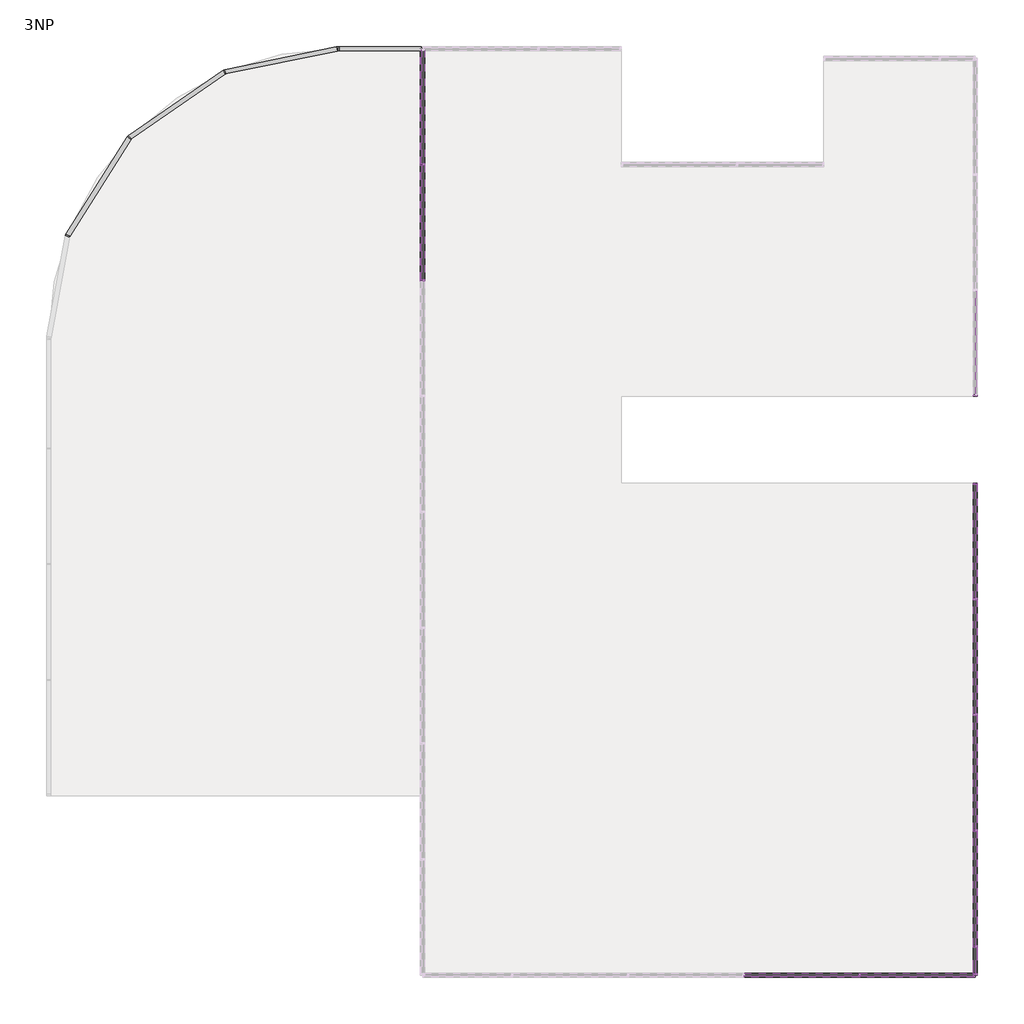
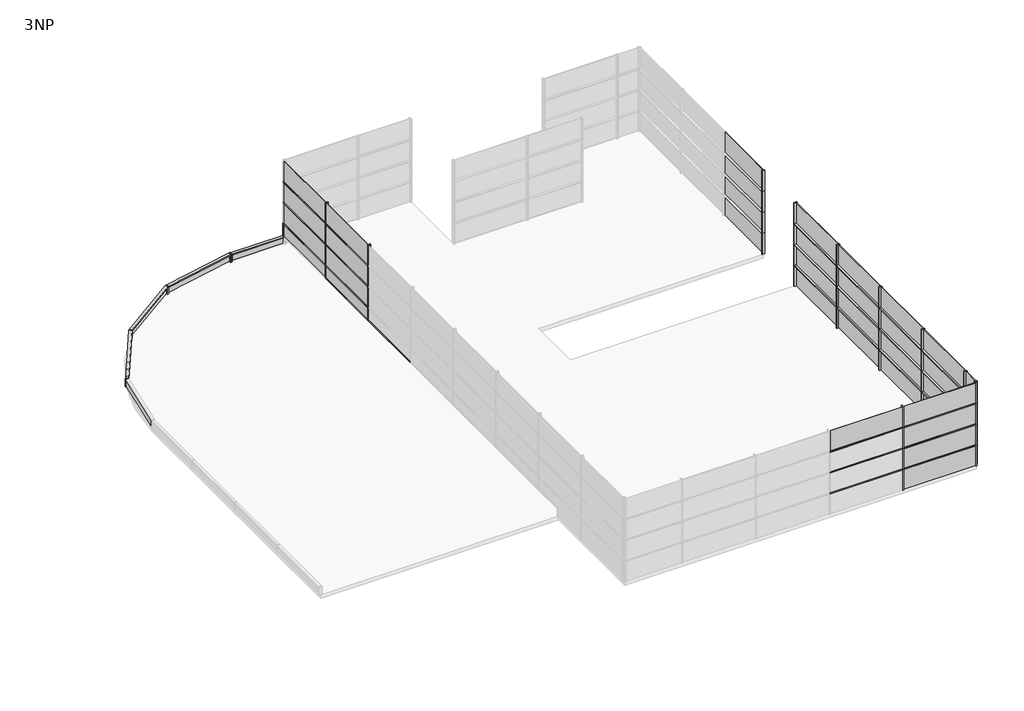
# One storey, part 2 of 4: 83 members, 42 plates.
"""IFC4 building model written with IfcOpenShell, lengths in millimetres."""

from ifc_helpers import new_model, si_unit, origin, place, context, project, spatial, transform, mapped, element, save
from components import rectangular_mullion_50_x_150mm_d99dc9be, rectangular_mullion_50_x_150mm_182bfbd5, rectangular_mullion_50_x_150mm_6588f46c, rectangular_mullion_50_x_150mm_a037c29c, rectangular_mullion_50_x_150mm_c2546fd4, rectangular_mullion_50_x_150mm_116cff39, rectangular_mullion_50_x_150mm_823f78f2, rectangular_mullion_50_x_150mm_70b588a3, rectangular_mullion_50_x_150mm_0b116d56, rectangular_mullion_50_x_150mm_6c212b22, rectangular_mullion_50_x_150mm_ac5ca7ae, rectangular_mullion_50_x_150mm_3491e2ff, rectangular_mullion_50_x_150mm_3d11f3b6, system_panel_glazed_8e9402eb, system_panel_glazed_89ac83a7, system_panel_glazed_5566c609, system_panel_glazed_8c18451d, system_panel_glazed_6f3688e4, system_panel_glazed_b7b38b86, system_panel_glazed_f2c6a52c, system_panel_glazed_066b9291, system_panel_glazed_e982af32, system_panel_glazed_e390192d

model = new_model("IFC4")

# Units and contexts
model_context = context("Model", 3, world=origin())
ifc_project = project(units=[si_unit("LENGTHUNIT", "METRE", prefix="MILLI")], contexts=[model_context])

# Site, building, storey
site = spatial("IfcSite", under=ifc_project)
building = spatial("IfcBuilding", under=site)
storey = spatial("IfcBuildingStorey", under=building, Name="3NP", Elevation=12000.0)

# Members
placement = place(None, origin())
rectangular_mullion_50_x_150mm_shape = rectangular_mullion_50_x_150mm_d99dc9be(model_context)
element("IfcMember", 1, ObjectType="Rectangular Mullion : 50 x 150mm", at=placement, inside=storey, context=model_context, shape_type="MappedRepresentation", body=[
    mapped(rectangular_mullion_50_x_150mm_shape, transform((13503.2660975, -10624.0160434, 13200.0), x_axis=(0.0, -1.0, 0.0), y_axis=(1.0, 0.0, 0.0), z_axis=(0.0, 0.0, 1.0))),
])
element("IfcMember", 2, ObjectType="Rectangular Mullion : 50 x 150mm", at=placement, inside=storey, context=model_context, shape_type="MappedRepresentation", body=[
    mapped(rectangular_mullion_50_x_150mm_shape, transform((13503.2660975, -10624.0160434, 14400.0), x_axis=(0.0, -1.0, 0.0), y_axis=(1.0, 0.0, 0.0), z_axis=(0.0, 0.0, 1.0))),
])
element("IfcMember", 3, ObjectType="Rectangular Mullion : 50 x 150mm", at=placement, inside=storey, context=model_context, shape_type="MappedRepresentation", body=[
    mapped(rectangular_mullion_50_x_150mm_shape, transform((13503.2660975, -10624.0160434, 15600.0), x_axis=(0.0, -1.0, 0.0), y_axis=(1.0, 0.0, 0.0), z_axis=(0.0, 0.0, 1.0))),
])
element("IfcMember", 4, ObjectType="Rectangular Mullion : 50 x 150mm", at=placement, inside=storey, context=model_context, shape_type="MappedRepresentation", body=[
    mapped(rectangular_mullion_50_x_150mm_shape, transform((13503.2660975, -10624.0160434, 16800.0), x_axis=(0.0, -1.0, 0.0), y_axis=(1.0, 0.0, 0.0), z_axis=(0.0, 0.0, 1.0))),
])
element("IfcMember", 5, ObjectType="Rectangular Mullion : 50 x 150mm", at=placement, inside=storey, context=model_context, shape_type="MappedRepresentation", body=[
    mapped(rectangular_mullion_50_x_150mm_shape, transform((13503.2660975, -14624.0160434, 13200.0), x_axis=(0.0, -1.0, 0.0), y_axis=(1.0, 0.0, 0.0), z_axis=(0.0, 0.0, 1.0))),
])
element("IfcMember", 6, ObjectType="Rectangular Mullion : 50 x 150mm", at=placement, inside=storey, context=model_context, shape_type="MappedRepresentation", body=[
    mapped(rectangular_mullion_50_x_150mm_shape, transform((13503.2660975, -14624.0160434, 14400.0), x_axis=(0.0, -1.0, 0.0), y_axis=(1.0, 0.0, 0.0), z_axis=(0.0, 0.0, 1.0))),
])
element("IfcMember", 7, ObjectType="Rectangular Mullion : 50 x 150mm", at=placement, inside=storey, context=model_context, shape_type="MappedRepresentation", body=[
    mapped(rectangular_mullion_50_x_150mm_shape, transform((13503.2660975, -14624.0160434, 15600.0), x_axis=(0.0, -1.0, 0.0), y_axis=(1.0, 0.0, 0.0), z_axis=(0.0, 0.0, 1.0))),
])
element("IfcMember", 8, ObjectType="Rectangular Mullion : 50 x 150mm", at=placement, inside=storey, context=model_context, shape_type="MappedRepresentation", body=[
    mapped(rectangular_mullion_50_x_150mm_shape, transform((13503.2660975, -14624.0160434, 16800.0), x_axis=(0.0, -1.0, 0.0), y_axis=(1.0, 0.0, 0.0), z_axis=(0.0, 0.0, 1.0))),
])
element("IfcMember", 9, ObjectType="Rectangular Mullion : 50 x 150mm", at=placement, inside=storey, context=model_context, shape_type="MappedRepresentation", body=[
    mapped(rectangular_mullion_50_x_150mm_shape, transform((13503.2660975, -18624.0160434, 13200.0), x_axis=(0.0, -1.0, 0.0), y_axis=(1.0, 0.0, 0.0), z_axis=(0.0, 0.0, 1.0))),
])
element("IfcMember", 10, ObjectType="Rectangular Mullion : 50 x 150mm", at=placement, inside=storey, context=model_context, shape_type="MappedRepresentation", body=[
    mapped(rectangular_mullion_50_x_150mm_shape, transform((13503.2660975, -18624.0160434, 14400.0), x_axis=(0.0, -1.0, 0.0), y_axis=(1.0, 0.0, 0.0), z_axis=(0.0, 0.0, 1.0))),
])
element("IfcMember", 11, ObjectType="Rectangular Mullion : 50 x 150mm", at=placement, inside=storey, context=model_context, shape_type="MappedRepresentation", body=[
    mapped(rectangular_mullion_50_x_150mm_shape, transform((13503.2660975, -18624.0160434, 15600.0), x_axis=(0.0, -1.0, 0.0), y_axis=(1.0, 0.0, 0.0), z_axis=(0.0, 0.0, 1.0))),
])
element("IfcMember", 12, ObjectType="Rectangular Mullion : 50 x 150mm", at=placement, inside=storey, context=model_context, shape_type="MappedRepresentation", body=[
    mapped(rectangular_mullion_50_x_150mm_shape, transform((13503.2660975, -18624.0160434, 16800.0), x_axis=(0.0, -1.0, 0.0), y_axis=(1.0, 0.0, 0.0), z_axis=(0.0, 0.0, 1.0))),
])
element("IfcMember", 13, ObjectType="Rectangular Mullion : 50 x 150mm", at=placement, inside=storey, context=model_context, shape_type="MappedRepresentation", body=[
    mapped(rectangular_mullion_50_x_150mm_shape, transform((13503.2660975, -22624.0160434, 13200.0), x_axis=(0.0, -1.0, 0.0), y_axis=(1.0, 0.0, 0.0), z_axis=(0.0, 0.0, 1.0))),
])
element("IfcMember", 14, ObjectType="Rectangular Mullion : 50 x 150mm", at=placement, inside=storey, context=model_context, shape_type="MappedRepresentation", body=[
    mapped(rectangular_mullion_50_x_150mm_shape, transform((13503.2660975, -22624.0160434, 14400.0), x_axis=(0.0, -1.0, 0.0), y_axis=(1.0, 0.0, 0.0), z_axis=(0.0, 0.0, 1.0))),
])
element("IfcMember", 15, ObjectType="Rectangular Mullion : 50 x 150mm", at=placement, inside=storey, context=model_context, shape_type="MappedRepresentation", body=[
    mapped(rectangular_mullion_50_x_150mm_shape, transform((13503.2660975, -22624.0160434, 15600.0), x_axis=(0.0, -1.0, 0.0), y_axis=(1.0, 0.0, 0.0), z_axis=(0.0, 0.0, 1.0))),
])
element("IfcMember", 16, ObjectType="Rectangular Mullion : 50 x 150mm", at=placement, inside=storey, context=model_context, shape_type="MappedRepresentation", body=[
    mapped(rectangular_mullion_50_x_150mm_shape, transform((13503.2660975, -22624.0160434, 16800.0), x_axis=(0.0, -1.0, 0.0), y_axis=(1.0, 0.0, 0.0), z_axis=(0.0, 0.0, 1.0))),
])
element("IfcMember", 17, ObjectType="Rectangular Mullion : 50 x 150mm", at=placement, inside=storey, context=model_context, shape_type="MappedRepresentation", body=[
    mapped(rectangular_mullion_50_x_150mm_shape, transform((9503.2660975, -23624.0160434, 13200.0), x_axis=(-1.0, 0.0, 0.0), y_axis=(0.0, -1.0, 0.0), z_axis=(0.0, 0.0, 1.0))),
])
element("IfcMember", 18, ObjectType="Rectangular Mullion : 50 x 150mm", at=placement, inside=storey, context=model_context, shape_type="MappedRepresentation", body=[
    mapped(rectangular_mullion_50_x_150mm_shape, transform((9503.2660975, -23624.0160434, 14400.0), x_axis=(-1.0, 0.0, 0.0), y_axis=(0.0, -1.0, 0.0), z_axis=(0.0, 0.0, 1.0))),
])
element("IfcMember", 19, ObjectType="Rectangular Mullion : 50 x 150mm", at=placement, inside=storey, context=model_context, shape_type="MappedRepresentation", body=[
    mapped(rectangular_mullion_50_x_150mm_shape, transform((9503.2660975, -23624.0160434, 15600.0), x_axis=(-1.0, 0.0, 0.0), y_axis=(0.0, -1.0, 0.0), z_axis=(0.0, 0.0, 1.0))),
])
element("IfcMember", 20, ObjectType="Rectangular Mullion : 50 x 150mm", at=placement, inside=storey, context=model_context, shape_type="MappedRepresentation", body=[
    mapped(rectangular_mullion_50_x_150mm_shape, transform((9503.2660975, -23624.0160434, 16800.0), x_axis=(-1.0, 0.0, 0.0), y_axis=(0.0, -1.0, 0.0), z_axis=(0.0, 0.0, 1.0))),
])
element("IfcMember", 21, ObjectType="Rectangular Mullion : 50 x 150mm", at=placement, inside=storey, context=model_context, shape_type="MappedRepresentation", body=[
    mapped(rectangular_mullion_50_x_150mm_shape, transform((-5587.173406, 375.9839566, 14400.0), x_axis=(0.0, 1.0, 0.0), y_axis=(-1.0, 0.0, 0.0), z_axis=(0.0, 0.0, 1.0))),
])
element("IfcMember", 22, ObjectType="Rectangular Mullion : 50 x 150mm", at=placement, inside=storey, context=model_context, shape_type="MappedRepresentation", body=[
    mapped(rectangular_mullion_50_x_150mm_shape, transform((-5587.173406, 375.9839566, 15600.0), x_axis=(0.0, 1.0, 0.0), y_axis=(-1.0, 0.0, 0.0), z_axis=(0.0, 0.0, 1.0))),
])
element("IfcMember", 23, ObjectType="Rectangular Mullion : 50 x 150mm", at=placement, inside=storey, context=model_context, shape_type="MappedRepresentation", body=[
    mapped(rectangular_mullion_50_x_150mm_shape, transform((-5587.173406, 375.9839566, 16800.0), x_axis=(0.0, 1.0, 0.0), y_axis=(-1.0, 0.0, 0.0), z_axis=(0.0, 0.0, 1.0))),
])
element("IfcMember", 24, ObjectType="Rectangular Mullion : 50 x 150mm", at=placement, inside=storey, context=model_context, shape_type="MappedRepresentation", body=[
    mapped(rectangular_mullion_50_x_150mm_shape, transform((-5587.173406, 4375.9839566, 14400.0), x_axis=(0.0, 1.0, 0.0), y_axis=(-1.0, 0.0, 0.0), z_axis=(0.0, 0.0, 1.0))),
])
element("IfcMember", 25, ObjectType="Rectangular Mullion : 50 x 150mm", at=placement, inside=storey, context=model_context, shape_type="MappedRepresentation", body=[
    mapped(rectangular_mullion_50_x_150mm_shape, transform((-5587.173406, 4375.9839566, 15600.0), x_axis=(0.0, 1.0, 0.0), y_axis=(-1.0, 0.0, 0.0), z_axis=(0.0, 0.0, 1.0))),
])
element("IfcMember", 26, ObjectType="Rectangular Mullion : 50 x 150mm", at=placement, inside=storey, context=model_context, shape_type="MappedRepresentation", body=[
    mapped(rectangular_mullion_50_x_150mm_shape, transform((-5587.173406, 4375.9839566, 16800.0), x_axis=(0.0, 1.0, 0.0), y_axis=(-1.0, 0.0, 0.0), z_axis=(0.0, 0.0, 1.0))),
])
rectangular_mullion_50_x_150mm_2_shape = rectangular_mullion_50_x_150mm_182bfbd5(model_context)
element("IfcMember", 27, ObjectType="Rectangular Mullion : 50 x 150mm", at=placement, inside=storey, context=model_context, shape_type="MappedRepresentation", body=[
    mapped(rectangular_mullion_50_x_150mm_2_shape, transform((-5587.173406, 350.9839566, 12448.4924443), x_axis=(0.0, 0.0, -1.0), y_axis=(-1.0, 0.0, 0.0), z_axis=(0.0, 1.0, 0.0))),
])
element("IfcMember", 28, ObjectType="Rectangular Mullion : 50 x 150mm", at=placement, inside=storey, context=model_context, shape_type="MappedRepresentation", body=[
    mapped(rectangular_mullion_50_x_150mm_2_shape, transform((-5587.173406, 4350.9839566, 12448.4924443), x_axis=(0.0, 0.0, -1.0), y_axis=(-1.0, 0.0, 0.0), z_axis=(0.0, 1.0, 0.0))),
])
rectangular_mullion_50_x_150mm_3_shape = rectangular_mullion_50_x_150mm_6588f46c(model_context)
element("IfcMember", 29, ObjectType="Rectangular Mullion : 50 x 150mm", at=placement, inside=storey, context=model_context, shape_type="MappedRepresentation", body=[
    mapped(rectangular_mullion_50_x_150mm_3_shape, transform((13503.2660975, -3624.0160434, 16800.0), x_axis=(0.0, -1.0, 0.0), y_axis=(1.0, 0.0, 0.0), z_axis=(0.0, 0.0, 1.0))),
])
element("IfcMember", 30, ObjectType="Rectangular Mullion : 50 x 150mm", at=placement, inside=storey, context=model_context, shape_type="MappedRepresentation", body=[
    mapped(rectangular_mullion_50_x_150mm_3_shape, transform((13503.2660975, -3624.0160434, 15600.0), x_axis=(0.0, -1.0, 0.0), y_axis=(1.0, 0.0, 0.0), z_axis=(0.0, 0.0, 1.0))),
])
element("IfcMember", 31, ObjectType="Rectangular Mullion : 50 x 150mm", at=placement, inside=storey, context=model_context, shape_type="MappedRepresentation", body=[
    mapped(rectangular_mullion_50_x_150mm_3_shape, transform((13503.2660975, -3624.0160434, 14400.0), x_axis=(0.0, -1.0, 0.0), y_axis=(1.0, 0.0, 0.0), z_axis=(0.0, 0.0, 1.0))),
])
element("IfcMember", 32, ObjectType="Rectangular Mullion : 50 x 150mm", at=placement, inside=storey, context=model_context, shape_type="MappedRepresentation", body=[
    mapped(rectangular_mullion_50_x_150mm_3_shape, transform((13503.2660975, -3624.0160434, 13200.0), x_axis=(0.0, -1.0, 0.0), y_axis=(1.0, 0.0, 0.0), z_axis=(0.0, 0.0, 1.0))),
])
element("IfcMember", 33, ObjectType="Rectangular Mullion : 50 x 150mm", at=placement, inside=storey, context=model_context, shape_type="MappedRepresentation", body=[
    mapped(rectangular_mullion_50_x_150mm_3_shape, transform((13503.2660975, -23624.0160434, 13200.0), x_axis=(0.0, -1.0, 0.0), y_axis=(1.0, 0.0, 0.0), z_axis=(0.0, 0.0, 1.0))),
])
element("IfcMember", 34, ObjectType="Rectangular Mullion : 50 x 150mm", at=placement, inside=storey, context=model_context, shape_type="MappedRepresentation", body=[
    mapped(rectangular_mullion_50_x_150mm_3_shape, transform((13503.2660975, -23624.0160434, 14400.0), x_axis=(0.0, -1.0, 0.0), y_axis=(1.0, 0.0, 0.0), z_axis=(0.0, 0.0, 1.0))),
])
element("IfcMember", 35, ObjectType="Rectangular Mullion : 50 x 150mm", at=placement, inside=storey, context=model_context, shape_type="MappedRepresentation", body=[
    mapped(rectangular_mullion_50_x_150mm_3_shape, transform((13503.2660975, -23624.0160434, 15600.0), x_axis=(0.0, -1.0, 0.0), y_axis=(1.0, 0.0, 0.0), z_axis=(0.0, 0.0, 1.0))),
])
element("IfcMember", 36, ObjectType="Rectangular Mullion : 50 x 150mm", at=placement, inside=storey, context=model_context, shape_type="MappedRepresentation", body=[
    mapped(rectangular_mullion_50_x_150mm_3_shape, transform((13503.2660975, -23624.0160434, 16800.0), x_axis=(0.0, -1.0, 0.0), y_axis=(1.0, 0.0, 0.0), z_axis=(0.0, 0.0, 1.0))),
])
rectangular_mullion_50_x_150mm_4_shape = rectangular_mullion_50_x_150mm_a037c29c(model_context)
element("IfcMember", 37, ObjectType="Rectangular Mullion : 50 x 150mm", at=placement, inside=storey, context=model_context, shape_type="MappedRepresentation", body=[
    mapped(rectangular_mullion_50_x_150mm_4_shape, transform((13503.2660975, -18649.0160434, 13200.0), x_axis=(0.0, 0.0, 1.0), y_axis=(1.0, 0.0, 0.0), z_axis=(0.0, 1.0, 0.0))),
])
element("IfcMember", 38, ObjectType="Rectangular Mullion : 50 x 150mm", at=placement, inside=storey, context=model_context, shape_type="MappedRepresentation", body=[
    mapped(rectangular_mullion_50_x_150mm_4_shape, transform((13503.2660975, -10649.0160434, 14400.0), x_axis=(0.0, 0.0, 1.0), y_axis=(1.0, 0.0, 0.0), z_axis=(0.0, 1.0, 0.0))),
])
element("IfcMember", 39, ObjectType="Rectangular Mullion : 50 x 150mm", at=placement, inside=storey, context=model_context, shape_type="MappedRepresentation", body=[
    mapped(rectangular_mullion_50_x_150mm_4_shape, transform((13503.2660975, -14649.0160434, 14400.0), x_axis=(0.0, 0.0, 1.0), y_axis=(1.0, 0.0, 0.0), z_axis=(0.0, 1.0, 0.0))),
])
element("IfcMember", 40, ObjectType="Rectangular Mullion : 50 x 150mm", at=placement, inside=storey, context=model_context, shape_type="MappedRepresentation", body=[
    mapped(rectangular_mullion_50_x_150mm_4_shape, transform((13503.2660975, -18649.0160434, 14400.0), x_axis=(0.0, 0.0, 1.0), y_axis=(1.0, 0.0, 0.0), z_axis=(0.0, 1.0, 0.0))),
])
element("IfcMember", 41, ObjectType="Rectangular Mullion : 50 x 150mm", at=placement, inside=storey, context=model_context, shape_type="MappedRepresentation", body=[
    mapped(rectangular_mullion_50_x_150mm_4_shape, transform((13503.2660975, -10649.0160434, 15600.0), x_axis=(0.0, 0.0, 1.0), y_axis=(1.0, 0.0, 0.0), z_axis=(0.0, 1.0, 0.0))),
])
element("IfcMember", 42, ObjectType="Rectangular Mullion : 50 x 150mm", at=placement, inside=storey, context=model_context, shape_type="MappedRepresentation", body=[
    mapped(rectangular_mullion_50_x_150mm_4_shape, transform((13503.2660975, -14649.0160434, 15600.0), x_axis=(0.0, 0.0, 1.0), y_axis=(1.0, 0.0, 0.0), z_axis=(0.0, 1.0, 0.0))),
])
element("IfcMember", 43, ObjectType="Rectangular Mullion : 50 x 150mm", at=placement, inside=storey, context=model_context, shape_type="MappedRepresentation", body=[
    mapped(rectangular_mullion_50_x_150mm_4_shape, transform((13503.2660975, -18649.0160434, 15600.0), x_axis=(0.0, 0.0, 1.0), y_axis=(1.0, 0.0, 0.0), z_axis=(0.0, 1.0, 0.0))),
])
element("IfcMember", 44, ObjectType="Rectangular Mullion : 50 x 150mm", at=placement, inside=storey, context=model_context, shape_type="MappedRepresentation", body=[
    mapped(rectangular_mullion_50_x_150mm_4_shape, transform((13503.2660975, -10649.0160434, 13200.0), x_axis=(0.0, 0.0, 1.0), y_axis=(1.0, 0.0, 0.0), z_axis=(0.0, 1.0, 0.0))),
])
element("IfcMember", 45, ObjectType="Rectangular Mullion : 50 x 150mm", at=placement, inside=storey, context=model_context, shape_type="MappedRepresentation", body=[
    mapped(rectangular_mullion_50_x_150mm_4_shape, transform((13503.2660975, -14649.0160434, 13200.0), x_axis=(0.0, 0.0, 1.0), y_axis=(1.0, 0.0, 0.0), z_axis=(0.0, 1.0, 0.0))),
])
element("IfcMember", 46, ObjectType="Rectangular Mullion : 50 x 150mm", at=placement, inside=storey, context=model_context, shape_type="MappedRepresentation", body=[
    mapped(rectangular_mullion_50_x_150mm_4_shape, transform((9478.2660975, -23624.0160434, 14400.0), x_axis=(0.0, 0.0, 1.0), y_axis=(0.0, -1.0, 0.0), z_axis=(1.0, 0.0, 0.0))),
])
element("IfcMember", 47, ObjectType="Rectangular Mullion : 50 x 150mm", at=placement, inside=storey, context=model_context, shape_type="MappedRepresentation", body=[
    mapped(rectangular_mullion_50_x_150mm_4_shape, transform((9478.2660975, -23624.0160434, 15600.0), x_axis=(0.0, 0.0, 1.0), y_axis=(0.0, -1.0, 0.0), z_axis=(1.0, 0.0, 0.0))),
])
element("IfcMember", 48, ObjectType="Rectangular Mullion : 50 x 150mm", at=placement, inside=storey, context=model_context, shape_type="MappedRepresentation", body=[
    mapped(rectangular_mullion_50_x_150mm_4_shape, transform((9478.2660975, -23624.0160434, 13200.0), x_axis=(0.0, 0.0, 1.0), y_axis=(0.0, -1.0, 0.0), z_axis=(1.0, 0.0, 0.0))),
])
element("IfcMember", 49, ObjectType="Rectangular Mullion : 50 x 150mm", at=placement, inside=storey, context=model_context, shape_type="MappedRepresentation", body=[
    mapped(rectangular_mullion_50_x_150mm_4_shape, transform((-5587.173406, 400.9839566, 15600.0), x_axis=(0.0, 0.0, 1.0), y_axis=(-1.0, 0.0, 0.0), z_axis=(0.0, -1.0, 0.0))),
])
element("IfcMember", 50, ObjectType="Rectangular Mullion : 50 x 150mm", at=placement, inside=storey, context=model_context, shape_type="MappedRepresentation", body=[
    mapped(rectangular_mullion_50_x_150mm_4_shape, transform((-5587.173406, 400.9839566, 14400.0), x_axis=(0.0, 0.0, 1.0), y_axis=(-1.0, 0.0, 0.0), z_axis=(0.0, -1.0, 0.0))),
])
element("IfcMember", 51, ObjectType="Rectangular Mullion : 50 x 150mm", at=placement, inside=storey, context=model_context, shape_type="MappedRepresentation", body=[
    mapped(rectangular_mullion_50_x_150mm_4_shape, transform((-5587.173406, 400.9839566, 13200.0), x_axis=(0.0, 0.0, 1.0), y_axis=(-1.0, 0.0, 0.0), z_axis=(0.0, -1.0, 0.0))),
])
rectangular_mullion_50_x_150mm_5_shape = rectangular_mullion_50_x_150mm_c2546fd4(model_context)
element("IfcMember", 52, ObjectType="Rectangular Mullion : 50 x 150mm", at=placement, inside=storey, context=model_context, shape_type="MappedRepresentation", body=[
    mapped(rectangular_mullion_50_x_150mm_5_shape, transform((13503.2660975, -6674.0160434, 14400.0), x_axis=(0.0, 0.0, 1.0), y_axis=(1.0, 0.0, 0.0), z_axis=(0.0, 1.0, 0.0))),
])
element("IfcMember", 53, ObjectType="Rectangular Mullion : 50 x 150mm", at=placement, inside=storey, context=model_context, shape_type="MappedRepresentation", body=[
    mapped(rectangular_mullion_50_x_150mm_5_shape, transform((13503.2660975, -6674.0160434, 15600.0), x_axis=(0.0, 0.0, 1.0), y_axis=(1.0, 0.0, 0.0), z_axis=(0.0, 1.0, 0.0))),
])
element("IfcMember", 54, ObjectType="Rectangular Mullion : 50 x 150mm", at=placement, inside=storey, context=model_context, shape_type="MappedRepresentation", body=[
    mapped(rectangular_mullion_50_x_150mm_5_shape, transform((13503.2660975, -6674.0160434, 13200.0), x_axis=(0.0, 0.0, 1.0), y_axis=(1.0, 0.0, 0.0), z_axis=(0.0, 1.0, 0.0))),
])
element("IfcMember", 55, ObjectType="Rectangular Mullion : 50 x 150mm", at=placement, inside=storey, context=model_context, shape_type="MappedRepresentation", body=[
    mapped(rectangular_mullion_50_x_150mm_5_shape, transform((13453.2660975, -23624.0160434, 14400.0), x_axis=(0.0, 0.0, 1.0), y_axis=(0.0, -1.0, 0.0), z_axis=(1.0, 0.0, 0.0))),
])
element("IfcMember", 56, ObjectType="Rectangular Mullion : 50 x 150mm", at=placement, inside=storey, context=model_context, shape_type="MappedRepresentation", body=[
    mapped(rectangular_mullion_50_x_150mm_5_shape, transform((13453.2660975, -23624.0160434, 15600.0), x_axis=(0.0, 0.0, 1.0), y_axis=(0.0, -1.0, 0.0), z_axis=(1.0, 0.0, 0.0))),
])
element("IfcMember", 57, ObjectType="Rectangular Mullion : 50 x 150mm", at=placement, inside=storey, context=model_context, shape_type="MappedRepresentation", body=[
    mapped(rectangular_mullion_50_x_150mm_5_shape, transform((13453.2660975, -23624.0160434, 13200.0), x_axis=(0.0, 0.0, 1.0), y_axis=(0.0, -1.0, 0.0), z_axis=(1.0, 0.0, 0.0))),
])
element("IfcMember", 58, ObjectType="Rectangular Mullion : 50 x 150mm", at=placement, inside=storey, context=model_context, shape_type="MappedRepresentation", body=[
    mapped(rectangular_mullion_50_x_150mm_5_shape, transform((-5587.173406, 4400.9839566, 15600.0), x_axis=(0.0, 0.0, 1.0), y_axis=(-1.0, 0.0, 0.0), z_axis=(0.0, -1.0, 0.0))),
])
element("IfcMember", 59, ObjectType="Rectangular Mullion : 50 x 150mm", at=placement, inside=storey, context=model_context, shape_type="MappedRepresentation", body=[
    mapped(rectangular_mullion_50_x_150mm_5_shape, transform((-5587.173406, 4400.9839566, 14400.0), x_axis=(0.0, 0.0, 1.0), y_axis=(-1.0, 0.0, 0.0), z_axis=(0.0, -1.0, 0.0))),
])
element("IfcMember", 60, ObjectType="Rectangular Mullion : 50 x 150mm", at=placement, inside=storey, context=model_context, shape_type="MappedRepresentation", body=[
    mapped(rectangular_mullion_50_x_150mm_5_shape, transform((-5587.173406, 4400.9839566, 13200.0), x_axis=(0.0, 0.0, 1.0), y_axis=(-1.0, 0.0, 0.0), z_axis=(0.0, -1.0, 0.0))),
])
element("IfcMember", 61, ObjectType="Rectangular Mullion : 50 x 150mm", at=placement, inside=storey, context=model_context, shape_type="MappedRepresentation", body=[
    mapped(rectangular_mullion_50_x_150mm_3_shape, transform((13503.2660975, -6624.0160434, 12000.0), x_axis=(0.0, 1.0, 0.0), y_axis=(1.0, 0.0, 0.0), z_axis=(0.0, 0.0, -1.0))),
])
element("IfcMember", 62, ObjectType="Rectangular Mullion : 50 x 150mm", at=placement, inside=storey, context=model_context, shape_type="MappedRepresentation", body=[
    mapped(rectangular_mullion_50_x_150mm_3_shape, transform((13503.2660975, -6624.0160434, 13200.0), x_axis=(0.0, 1.0, 0.0), y_axis=(1.0, 0.0, 0.0), z_axis=(0.0, 0.0, -1.0))),
])
element("IfcMember", 63, ObjectType="Rectangular Mullion : 50 x 150mm", at=placement, inside=storey, context=model_context, shape_type="MappedRepresentation", body=[
    mapped(rectangular_mullion_50_x_150mm_3_shape, transform((13503.2660975, -6624.0160434, 14400.0), x_axis=(0.0, 1.0, 0.0), y_axis=(1.0, 0.0, 0.0), z_axis=(0.0, 0.0, -1.0))),
])
element("IfcMember", 64, ObjectType="Rectangular Mullion : 50 x 150mm", at=placement, inside=storey, context=model_context, shape_type="MappedRepresentation", body=[
    mapped(rectangular_mullion_50_x_150mm_3_shape, transform((13503.2660975, -6624.0160434, 15600.0), x_axis=(0.0, 1.0, 0.0), y_axis=(1.0, 0.0, 0.0), z_axis=(0.0, 0.0, -1.0))),
])
element("IfcMember", 65, ObjectType="Rectangular Mullion : 50 x 150mm", at=placement, inside=storey, context=model_context, shape_type="MappedRepresentation", body=[
    mapped(rectangular_mullion_50_x_150mm_3_shape, transform((13503.2660975, -23624.0160434, 12000.0), x_axis=(1.0, 0.0, 0.0), y_axis=(0.0, -1.0, 0.0), z_axis=(0.0, 0.0, -1.0))),
])
element("IfcMember", 66, ObjectType="Rectangular Mullion : 50 x 150mm", at=placement, inside=storey, context=model_context, shape_type="MappedRepresentation", body=[
    mapped(rectangular_mullion_50_x_150mm_3_shape, transform((13503.2660975, -23624.0160434, 13200.0), x_axis=(1.0, 0.0, 0.0), y_axis=(0.0, -1.0, 0.0), z_axis=(0.0, 0.0, -1.0))),
])
element("IfcMember", 67, ObjectType="Rectangular Mullion : 50 x 150mm", at=placement, inside=storey, context=model_context, shape_type="MappedRepresentation", body=[
    mapped(rectangular_mullion_50_x_150mm_3_shape, transform((13503.2660975, -23624.0160434, 14400.0), x_axis=(1.0, 0.0, 0.0), y_axis=(0.0, -1.0, 0.0), z_axis=(0.0, 0.0, -1.0))),
])
element("IfcMember", 68, ObjectType="Rectangular Mullion : 50 x 150mm", at=placement, inside=storey, context=model_context, shape_type="MappedRepresentation", body=[
    mapped(rectangular_mullion_50_x_150mm_3_shape, transform((13503.2660975, -23624.0160434, 15600.0), x_axis=(1.0, 0.0, 0.0), y_axis=(0.0, -1.0, 0.0), z_axis=(0.0, 0.0, -1.0))),
])
rectangular_mullion_50_x_150mm_6_shape = rectangular_mullion_50_x_150mm_116cff39(model_context)
element("IfcMember", 69, ObjectType="Rectangular Mullion : 50 x 150mm", at=placement, inside=storey, context=model_context, shape_type="MappedRepresentation", body=[
    mapped(rectangular_mullion_50_x_150mm_6_shape, transform((13503.2660975, -22649.0160434, 13200.0), x_axis=(0.0, 0.0, 1.0), y_axis=(1.0, 0.0, 0.0), z_axis=(0.0, 1.0, 0.0))),
])
element("IfcMember", 70, ObjectType="Rectangular Mullion : 50 x 150mm", at=placement, inside=storey, context=model_context, shape_type="MappedRepresentation", body=[
    mapped(rectangular_mullion_50_x_150mm_6_shape, transform((13503.2660975, -22649.0160434, 14400.0), x_axis=(0.0, 0.0, 1.0), y_axis=(1.0, 0.0, 0.0), z_axis=(0.0, 1.0, 0.0))),
])
element("IfcMember", 71, ObjectType="Rectangular Mullion : 50 x 150mm", at=placement, inside=storey, context=model_context, shape_type="MappedRepresentation", body=[
    mapped(rectangular_mullion_50_x_150mm_6_shape, transform((13503.2660975, -22649.0160434, 15600.0), x_axis=(0.0, 0.0, 1.0), y_axis=(1.0, 0.0, 0.0), z_axis=(0.0, 1.0, 0.0))),
])
rectangular_mullion_50_x_150mm_7_shape = rectangular_mullion_50_x_150mm_823f78f2(model_context)
element("IfcMember", 72, ObjectType="Rectangular Mullion : 50 x 150mm", at=placement, inside=storey, context=model_context, shape_type="MappedRepresentation", body=[
    mapped(rectangular_mullion_50_x_150mm_7_shape, transform((-5587.173406, 375.9839566, 13200.0), x_axis=(0.0, 1.0, 0.0), y_axis=(-1.0, 0.0, 0.0), z_axis=(0.0, 0.0, 1.0))),
])
element("IfcMember", 73, ObjectType="Rectangular Mullion : 50 x 150mm", at=placement, inside=storey, context=model_context, shape_type="MappedRepresentation", body=[
    mapped(rectangular_mullion_50_x_150mm_7_shape, transform((-5587.173406, 4375.9839566, 13200.0), x_axis=(0.0, 1.0, 0.0), y_axis=(-1.0, 0.0, 0.0), z_axis=(0.0, 0.0, 1.0))),
])
rectangular_mullion_50_x_150mm_8_shape = rectangular_mullion_50_x_150mm_70b588a3(model_context)
element("IfcMember", 74, ObjectType="Rectangular Mullion : 50 x 150mm", at=placement, inside=storey, context=model_context, shape_type="MappedRepresentation", body=[
    mapped(rectangular_mullion_50_x_150mm_8_shape, transform((-5587.173406, 8375.9839566, 13200.0), x_axis=(0.0, 1.0, 0.0), y_axis=(-1.0, 0.0, 0.0), z_axis=(0.0, 0.0, 1.0))),
])
rectangular_mullion_50_x_150mm_9_shape = rectangular_mullion_50_x_150mm_0b116d56(model_context)
element("IfcMember", 75, ObjectType="Rectangular Mullion : 50 x 150mm", at=placement, inside=storey, context=model_context, shape_type="MappedRepresentation", body=[
    mapped(rectangular_mullion_50_x_150mm_9_shape, transform((-8446.7339025, 8375.9839566, 12448.4924443), x_axis=(0.0, 0.0, 1.0), y_axis=(0.0, 1.0, 0.0), z_axis=(-1.0, 0.0, 0.0))),
])
rectangular_mullion_50_x_150mm_10_shape = rectangular_mullion_50_x_150mm_6c212b22(model_context)
element("IfcMember", 76, ObjectType="Rectangular Mullion : 50 x 150mm", at=placement, inside=storey, context=model_context, shape_type="MappedRepresentation", body=[
    mapped(rectangular_mullion_50_x_150mm_10_shape, transform((-8496.7339025, 8375.9839566, 12448.4924443), x_axis=(0.9797958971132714, 0.19999999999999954, 0.0), y_axis=(-0.19999999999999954, 0.9797958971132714, 0.0), z_axis=(0.0, 0.0, 1.0))),
])
element("IfcMember", 77, ObjectType="Rectangular Mullion : 50 x 150mm", at=placement, inside=storey, context=model_context, shape_type="MappedRepresentation", body=[
    mapped(rectangular_mullion_50_x_150mm_10_shape, transform((-8496.7339025, 8375.9839566, 12000.0), x_axis=(-1.0, 0.0, 0.0), y_axis=(0.0, 1.0, 0.0), z_axis=(0.0, 0.0, -1.0))),
])
rectangular_mullion_50_x_150mm_11_shape = rectangular_mullion_50_x_150mm_ac5ca7ae(model_context)
element("IfcMember", 78, ObjectType="Rectangular Mullion : 50 x 150mm", at=placement, inside=storey, context=model_context, shape_type="MappedRepresentation", body=[
    mapped(rectangular_mullion_50_x_150mm_11_shape, transform((-12391.4225935, 7580.9839566, 12448.4924443), x_axis=(0.0, 0.0, 1.0), y_axis=(-0.19999999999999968, 0.9797958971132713, 0.0), z_axis=(-0.9797958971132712, -0.19999999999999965, 0.0))),
])
rectangular_mullion_50_x_150mm_12_shape = rectangular_mullion_50_x_150mm_3491e2ff(model_context)
element("IfcMember", 79, ObjectType="Rectangular Mullion : 50 x 150mm", at=placement, inside=storey, context=model_context, shape_type="MappedRepresentation", body=[
    mapped(rectangular_mullion_50_x_150mm_12_shape, transform((-15687.4559914, 5318.1839566, 12448.4924443), x_axis=(0.0, 0.0, 1.0), y_axis=(-0.5680000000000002, 0.8230285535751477, 0.0), z_axis=(-0.8230285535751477, -0.5680000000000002, 0.0))),
])
element("IfcMember", 80, ObjectType="Rectangular Mullion : 50 x 150mm", at=placement, inside=storey, context=model_context, shape_type="MappedRepresentation", body=[
    mapped(rectangular_mullion_50_x_150mm_12_shape, transform((-17832.9738551, 1944.6319566, 12448.4924443), x_axis=(0.0, 0.0, 1.0), y_axis=(-0.8451199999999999, 0.5345766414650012, 0.0), z_axis=(-0.5345766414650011, -0.8451199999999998, 0.0))),
])
rectangular_mullion_50_x_150mm_13_shape = rectangular_mullion_50_x_150mm_3d11f3b6(model_context)
element("IfcMember", 81, ObjectType="Rectangular Mullion : 50 x 150mm", at=placement, inside=storey, context=model_context, shape_type="MappedRepresentation", body=[
    mapped(rectangular_mullion_50_x_150mm_13_shape, transform((-12415.9174909, 7575.9839566, 12000.0), x_axis=(-0.92, -0.3919183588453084, 0.0), y_axis=(-0.3919183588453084, 0.92, 0.0), z_axis=(0.0, 0.0, -1.0))),
])
element("IfcMember", 82, ObjectType="Rectangular Mullion : 50 x 150mm", at=placement, inside=storey, context=model_context, shape_type="MappedRepresentation", body=[
    mapped(rectangular_mullion_50_x_150mm_13_shape, transform((-15708.0317052, 5303.9839566, 12000.0), x_axis=(-0.6928000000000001, -0.7211297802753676, 0.0), y_axis=(-0.7211297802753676, 0.6928000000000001, 0.0), z_axis=(0.0, 0.0, -1.0))),
])
element("IfcMember", 83, ObjectType="Rectangular Mullion : 50 x 150mm", at=placement, inside=storey, context=model_context, shape_type="MappedRepresentation", body=[
    mapped(rectangular_mullion_50_x_150mm_13_shape, transform((-17846.3382711, 1923.5039566, 12000.0), x_axis=(-0.35475199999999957, -0.9349604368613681, 0.0), y_axis=(-0.9349604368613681, 0.35475199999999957, 0.0), z_axis=(0.0, 0.0, -1.0))),
])

# Plates
system_panel_glazed_shape = system_panel_glazed_8e9402eb(model_context)
element("IfcPlate", 84, ObjectType="System Panel : Glazed", at=placement, inside=storey, context=model_context, shape_type="MappedRepresentation", body=[
    mapped(system_panel_glazed_shape, transform((-5587.173406, 6363.4839566, 13225.0), x_axis=(0.0, 1.0, 0.0), y_axis=(-1.0, 0.0, 0.0), z_axis=(0.0, 0.0, 1.0))),
])
element("IfcPlate", 85, ObjectType="System Panel : Glazed", at=placement, inside=storey, context=model_context, shape_type="MappedRepresentation", body=[
    mapped(system_panel_glazed_shape, transform((-5587.173406, 6363.4839566, 14425.0), x_axis=(0.0, 1.0, 0.0), y_axis=(-1.0, 0.0, 0.0), z_axis=(0.0, 0.0, 1.0))),
])
element("IfcPlate", 86, ObjectType="System Panel : Glazed", at=placement, inside=storey, context=model_context, shape_type="MappedRepresentation", body=[
    mapped(system_panel_glazed_shape, transform((-5587.173406, 6363.4839566, 15625.0), x_axis=(0.0, 1.0, 0.0), y_axis=(-1.0, 0.0, 0.0), z_axis=(0.0, 0.0, 1.0))),
])
element("IfcPlate", 87, ObjectType="System Panel : Glazed", at=placement, inside=storey, context=model_context, shape_type="MappedRepresentation", body=[
    mapped(system_panel_glazed_shape, transform((11490.7660975, -23624.0160434, 12025.0), x_axis=(-1.0, 0.0, 0.0), y_axis=(0.0, -1.0, 0.0), z_axis=(0.0, 0.0, 1.0))),
])
element("IfcPlate", 88, ObjectType="System Panel : Glazed", at=placement, inside=storey, context=model_context, shape_type="MappedRepresentation", body=[
    mapped(system_panel_glazed_shape, transform((11490.7660975, -23624.0160434, 13225.0), x_axis=(-1.0, 0.0, 0.0), y_axis=(0.0, -1.0, 0.0), z_axis=(0.0, 0.0, 1.0))),
])
element("IfcPlate", 89, ObjectType="System Panel : Glazed", at=placement, inside=storey, context=model_context, shape_type="MappedRepresentation", body=[
    mapped(system_panel_glazed_shape, transform((11490.7660975, -23624.0160434, 14425.0), x_axis=(-1.0, 0.0, 0.0), y_axis=(0.0, -1.0, 0.0), z_axis=(0.0, 0.0, 1.0))),
])
element("IfcPlate", 90, ObjectType="System Panel : Glazed", at=placement, inside=storey, context=model_context, shape_type="MappedRepresentation", body=[
    mapped(system_panel_glazed_shape, transform((11490.7660975, -23624.0160434, 15625.0), x_axis=(-1.0, 0.0, 0.0), y_axis=(0.0, -1.0, 0.0), z_axis=(0.0, 0.0, 1.0))),
])
element("IfcPlate", 91, ObjectType="System Panel : Glazed", at=placement, inside=storey, context=model_context, shape_type="MappedRepresentation", body=[
    mapped(system_panel_glazed_shape, transform((13503.2660975, -8636.5160434, 12025.0), x_axis=(0.0, -1.0, 0.0), y_axis=(1.0, 0.0, 0.0), z_axis=(0.0, 0.0, 1.0))),
])
element("IfcPlate", 92, ObjectType="System Panel : Glazed", at=placement, inside=storey, context=model_context, shape_type="MappedRepresentation", body=[
    mapped(system_panel_glazed_shape, transform((13503.2660975, -8636.5160434, 13225.0), x_axis=(0.0, -1.0, 0.0), y_axis=(1.0, 0.0, 0.0), z_axis=(0.0, 0.0, 1.0))),
])
element("IfcPlate", 93, ObjectType="System Panel : Glazed", at=placement, inside=storey, context=model_context, shape_type="MappedRepresentation", body=[
    mapped(system_panel_glazed_shape, transform((13503.2660975, -8636.5160434, 14425.0), x_axis=(0.0, -1.0, 0.0), y_axis=(1.0, 0.0, 0.0), z_axis=(0.0, 0.0, 1.0))),
])
element("IfcPlate", 94, ObjectType="System Panel : Glazed", at=placement, inside=storey, context=model_context, shape_type="MappedRepresentation", body=[
    mapped(system_panel_glazed_shape, transform((13503.2660975, -8636.5160434, 15625.0), x_axis=(0.0, -1.0, 0.0), y_axis=(1.0, 0.0, 0.0), z_axis=(0.0, 0.0, 1.0))),
])
system_panel_glazed_2_shape = system_panel_glazed_89ac83a7(model_context)
element("IfcPlate", 95, ObjectType="System Panel : Glazed", at=placement, inside=storey, context=model_context, shape_type="MappedRepresentation", body=[
    mapped(system_panel_glazed_2_shape, transform((-5587.173406, 2375.9839566, 13225.0), x_axis=(0.0, 1.0, 0.0), y_axis=(-1.0, 0.0, 0.0), z_axis=(0.0, 0.0, 1.0))),
])
element("IfcPlate", 96, ObjectType="System Panel : Glazed", at=placement, inside=storey, context=model_context, shape_type="MappedRepresentation", body=[
    mapped(system_panel_glazed_2_shape, transform((-5587.173406, 2375.9839566, 14425.0), x_axis=(0.0, 1.0, 0.0), y_axis=(-1.0, 0.0, 0.0), z_axis=(0.0, 0.0, 1.0))),
])
element("IfcPlate", 97, ObjectType="System Panel : Glazed", at=placement, inside=storey, context=model_context, shape_type="MappedRepresentation", body=[
    mapped(system_panel_glazed_2_shape, transform((-5587.173406, 2375.9839566, 15625.0), x_axis=(0.0, 1.0, 0.0), y_axis=(-1.0, 0.0, 0.0), z_axis=(0.0, 0.0, 1.0))),
])
element("IfcPlate", 98, ObjectType="System Panel : Glazed", at=placement, inside=storey, context=model_context, shape_type="MappedRepresentation", body=[
    mapped(system_panel_glazed_2_shape, transform((7503.2660975, -23624.0160434, 15625.0), x_axis=(-1.0, 0.0, 0.0), y_axis=(0.0, -1.0, 0.0), z_axis=(0.0, 0.0, 1.0))),
])
element("IfcPlate", 99, ObjectType="System Panel : Glazed", at=placement, inside=storey, context=model_context, shape_type="MappedRepresentation", body=[
    mapped(system_panel_glazed_2_shape, transform((13503.2660975, -12624.0160434, 12025.0), x_axis=(0.0, -1.0, 0.0), y_axis=(1.0, 0.0, 0.0), z_axis=(0.0, 0.0, 1.0))),
])
element("IfcPlate", 100, ObjectType="System Panel : Glazed", at=placement, inside=storey, context=model_context, shape_type="MappedRepresentation", body=[
    mapped(system_panel_glazed_2_shape, transform((13503.2660975, -16624.0160434, 12025.0), x_axis=(0.0, -1.0, 0.0), y_axis=(1.0, 0.0, 0.0), z_axis=(0.0, 0.0, 1.0))),
])
element("IfcPlate", 101, ObjectType="System Panel : Glazed", at=placement, inside=storey, context=model_context, shape_type="MappedRepresentation", body=[
    mapped(system_panel_glazed_2_shape, transform((13503.2660975, -20624.0160434, 12025.0), x_axis=(0.0, -1.0, 0.0), y_axis=(1.0, 0.0, 0.0), z_axis=(0.0, 0.0, 1.0))),
])
element("IfcPlate", 102, ObjectType="System Panel : Glazed", at=placement, inside=storey, context=model_context, shape_type="MappedRepresentation", body=[
    mapped(system_panel_glazed_2_shape, transform((13503.2660975, -12624.0160434, 13225.0), x_axis=(0.0, -1.0, 0.0), y_axis=(1.0, 0.0, 0.0), z_axis=(0.0, 0.0, 1.0))),
])
element("IfcPlate", 103, ObjectType="System Panel : Glazed", at=placement, inside=storey, context=model_context, shape_type="MappedRepresentation", body=[
    mapped(system_panel_glazed_2_shape, transform((13503.2660975, -16624.0160434, 13225.0), x_axis=(0.0, -1.0, 0.0), y_axis=(1.0, 0.0, 0.0), z_axis=(0.0, 0.0, 1.0))),
])
element("IfcPlate", 104, ObjectType="System Panel : Glazed", at=placement, inside=storey, context=model_context, shape_type="MappedRepresentation", body=[
    mapped(system_panel_glazed_2_shape, transform((13503.2660975, -20624.0160434, 13225.0), x_axis=(0.0, -1.0, 0.0), y_axis=(1.0, 0.0, 0.0), z_axis=(0.0, 0.0, 1.0))),
])
element("IfcPlate", 105, ObjectType="System Panel : Glazed", at=placement, inside=storey, context=model_context, shape_type="MappedRepresentation", body=[
    mapped(system_panel_glazed_2_shape, transform((13503.2660975, -12624.0160434, 14425.0), x_axis=(0.0, -1.0, 0.0), y_axis=(1.0, 0.0, 0.0), z_axis=(0.0, 0.0, 1.0))),
])
element("IfcPlate", 106, ObjectType="System Panel : Glazed", at=placement, inside=storey, context=model_context, shape_type="MappedRepresentation", body=[
    mapped(system_panel_glazed_2_shape, transform((13503.2660975, -16624.0160434, 14425.0), x_axis=(0.0, -1.0, 0.0), y_axis=(1.0, 0.0, 0.0), z_axis=(0.0, 0.0, 1.0))),
])
element("IfcPlate", 107, ObjectType="System Panel : Glazed", at=placement, inside=storey, context=model_context, shape_type="MappedRepresentation", body=[
    mapped(system_panel_glazed_2_shape, transform((13503.2660975, -20624.0160434, 14425.0), x_axis=(0.0, -1.0, 0.0), y_axis=(1.0, 0.0, 0.0), z_axis=(0.0, 0.0, 1.0))),
])
element("IfcPlate", 108, ObjectType="System Panel : Glazed", at=placement, inside=storey, context=model_context, shape_type="MappedRepresentation", body=[
    mapped(system_panel_glazed_2_shape, transform((13503.2660975, -12624.0160434, 15625.0), x_axis=(0.0, -1.0, 0.0), y_axis=(1.0, 0.0, 0.0), z_axis=(0.0, 0.0, 1.0))),
])
element("IfcPlate", 109, ObjectType="System Panel : Glazed", at=placement, inside=storey, context=model_context, shape_type="MappedRepresentation", body=[
    mapped(system_panel_glazed_2_shape, transform((13503.2660975, -16624.0160434, 15625.0), x_axis=(0.0, -1.0, 0.0), y_axis=(1.0, 0.0, 0.0), z_axis=(0.0, 0.0, 1.0))),
])
element("IfcPlate", 110, ObjectType="System Panel : Glazed", at=placement, inside=storey, context=model_context, shape_type="MappedRepresentation", body=[
    mapped(system_panel_glazed_2_shape, transform((13503.2660975, -20624.0160434, 15625.0), x_axis=(0.0, -1.0, 0.0), y_axis=(1.0, 0.0, 0.0), z_axis=(0.0, 0.0, 1.0))),
])
system_panel_glazed_3_shape = system_panel_glazed_5566c609(model_context)
element("IfcPlate", 111, ObjectType="System Panel : Glazed", at=placement, inside=storey, context=model_context, shape_type="MappedRepresentation", body=[
    mapped(system_panel_glazed_3_shape, transform((13503.2660975, -1779.830251, 12025.0), x_axis=(0.0, -1.0, 0.0), y_axis=(1.0, 0.0, 0.0), z_axis=(0.0, 0.0, 1.0))),
])
element("IfcPlate", 112, ObjectType="System Panel : Glazed", at=placement, inside=storey, context=model_context, shape_type="MappedRepresentation", body=[
    mapped(system_panel_glazed_3_shape, transform((13503.2660975, -1779.830251, 13225.0), x_axis=(0.0, -1.0, 0.0), y_axis=(1.0, 0.0, 0.0), z_axis=(0.0, 0.0, 1.0))),
])
element("IfcPlate", 113, ObjectType="System Panel : Glazed", at=placement, inside=storey, context=model_context, shape_type="MappedRepresentation", body=[
    mapped(system_panel_glazed_3_shape, transform((13503.2660975, -1779.830251, 14425.0), x_axis=(0.0, -1.0, 0.0), y_axis=(1.0, 0.0, 0.0), z_axis=(0.0, 0.0, 1.0))),
])
element("IfcPlate", 114, ObjectType="System Panel : Glazed", at=placement, inside=storey, context=model_context, shape_type="MappedRepresentation", body=[
    mapped(system_panel_glazed_3_shape, transform((13503.2660975, -1779.830251, 15625.0), x_axis=(0.0, -1.0, 0.0), y_axis=(1.0, 0.0, 0.0), z_axis=(0.0, 0.0, 1.0))),
])
system_panel_glazed_4_shape = system_panel_glazed_8c18451d(model_context)
element("IfcPlate", 115, ObjectType="System Panel : Glazed", at=placement, inside=storey, context=model_context, shape_type="MappedRepresentation", body=[
    mapped(system_panel_glazed_4_shape, transform((13503.2660975, -23111.5160434, 12025.0), x_axis=(0.0, -1.0, 0.0), y_axis=(1.0, 0.0, 0.0), z_axis=(0.0, 0.0, 1.0))),
])
element("IfcPlate", 116, ObjectType="System Panel : Glazed", at=placement, inside=storey, context=model_context, shape_type="MappedRepresentation", body=[
    mapped(system_panel_glazed_4_shape, transform((13503.2660975, -23111.5160434, 13225.0), x_axis=(0.0, -1.0, 0.0), y_axis=(1.0, 0.0, 0.0), z_axis=(0.0, 0.0, 1.0))),
])
element("IfcPlate", 117, ObjectType="System Panel : Glazed", at=placement, inside=storey, context=model_context, shape_type="MappedRepresentation", body=[
    mapped(system_panel_glazed_4_shape, transform((13503.2660975, -23111.5160434, 14425.0), x_axis=(0.0, -1.0, 0.0), y_axis=(1.0, 0.0, 0.0), z_axis=(0.0, 0.0, 1.0))),
])
element("IfcPlate", 118, ObjectType="System Panel : Glazed", at=placement, inside=storey, context=model_context, shape_type="MappedRepresentation", body=[
    mapped(system_panel_glazed_4_shape, transform((13503.2660975, -23111.5160434, 15625.0), x_axis=(0.0, -1.0, 0.0), y_axis=(1.0, 0.0, 0.0), z_axis=(0.0, 0.0, 1.0))),
])
system_panel_glazed_5_shape = system_panel_glazed_6f3688e4(model_context)
element("IfcPlate", 119, ObjectType="System Panel : Glazed", at=placement, inside=storey, context=model_context, shape_type="MappedRepresentation", body=[
    mapped(system_panel_glazed_5_shape, transform((-5587.173406, 2375.9839566, 12498.4924443), x_axis=(0.0, 1.0, 0.0), y_axis=(-1.0, 0.0, 0.0), z_axis=(0.0, 0.0, 1.0))),
])
system_panel_glazed_6_shape = system_panel_glazed_b7b38b86(model_context)
element("IfcPlate", 120, ObjectType="System Panel : Glazed", at=placement, inside=storey, context=model_context, shape_type="MappedRepresentation", body=[
    mapped(system_panel_glazed_6_shape, transform((-5587.173406, 6363.4839566, 12498.4924443), x_axis=(0.0, 1.0, 0.0), y_axis=(-1.0, 0.0, 0.0), z_axis=(0.0, 0.0, 1.0))),
])
system_panel_glazed_7_shape = system_panel_glazed_f2c6a52c(model_context)
element("IfcPlate", 121, ObjectType="System Panel : Glazed", at=placement, inside=storey, context=model_context, shape_type="MappedRepresentation", body=[
    mapped(system_panel_glazed_7_shape, transform((-7041.9536543, 8375.9839566, 12025.0), x_axis=(1.0, 0.0, 0.0), y_axis=(0.0, 1.0, 0.0), z_axis=(0.0, 0.0, 1.0))),
])
system_panel_glazed_8_shape = system_panel_glazed_066b9291(model_context)
element("IfcPlate", 122, ObjectType="System Panel : Glazed", at=placement, inside=storey, context=model_context, shape_type="MappedRepresentation", body=[
    mapped(system_panel_glazed_8_shape, transform((-10468.5731454, 7973.4839566, 12025.0), x_axis=(-0.9797958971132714, -0.19999999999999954, 0.0), y_axis=(0.19999999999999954, -0.9797958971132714, 0.0), z_axis=(0.0, 0.0, 1.0))),
])
system_panel_glazed_9_shape = system_panel_glazed_e982af32(model_context)
element("IfcPlate", 123, ObjectType="System Panel : Glazed", at=placement, inside=storey, context=model_context, shape_type="MappedRepresentation", body=[
    mapped(system_panel_glazed_9_shape, transform((-14061.9745981, 6439.9839566, 12025.0), x_axis=(-0.8230285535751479, -0.5680000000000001, 0.0), y_axis=(0.5680000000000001, -0.8230285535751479, 0.0), z_axis=(0.0, 0.0, 1.0))),
])
element("IfcPlate", 124, ObjectType="System Panel : Glazed", at=placement, inside=storey, context=model_context, shape_type="MappedRepresentation", body=[
    mapped(system_panel_glazed_9_shape, transform((-16777.1849882, 3613.7439566, 12025.0), x_axis=(-0.5345766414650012, -0.8451199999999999, 0.0), y_axis=(0.8451199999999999, -0.5345766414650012, 0.0), z_axis=(0.0, 0.0, 1.0))),
])
system_panel_glazed_10_shape = system_panel_glazed_e390192d(model_context)
element("IfcPlate", 125, ObjectType="System Panel : Glazed", at=placement, inside=storey, context=model_context, shape_type="MappedRepresentation", body=[
    mapped(system_panel_glazed_10_shape, transform((-18169.2819315, 162.0390281, 12025.0), x_axis=(-0.18033241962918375, -0.9836057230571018, 0.0), y_axis=(0.9836057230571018, -0.18033241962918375, 0.0), z_axis=(0.0, 0.0, 1.0))),
])

save(model, "model.ifc")
